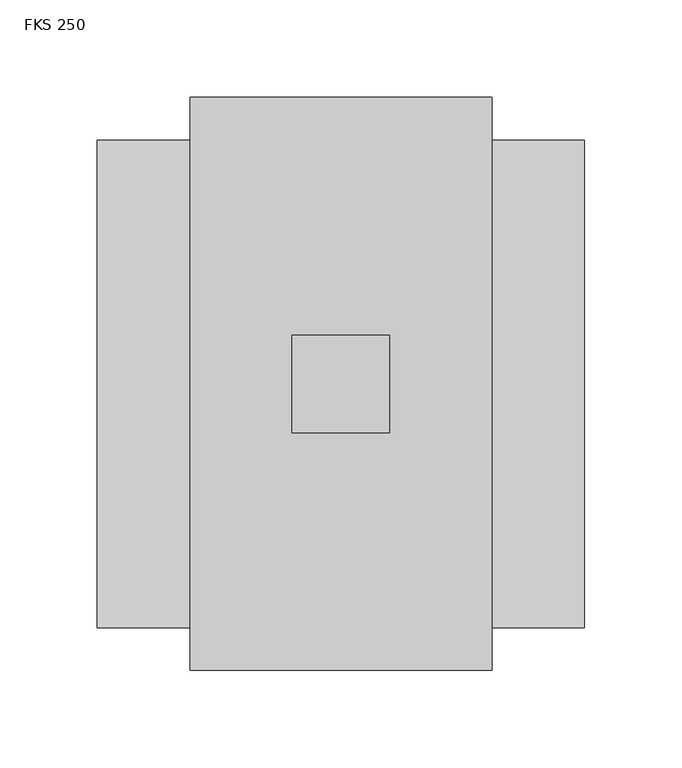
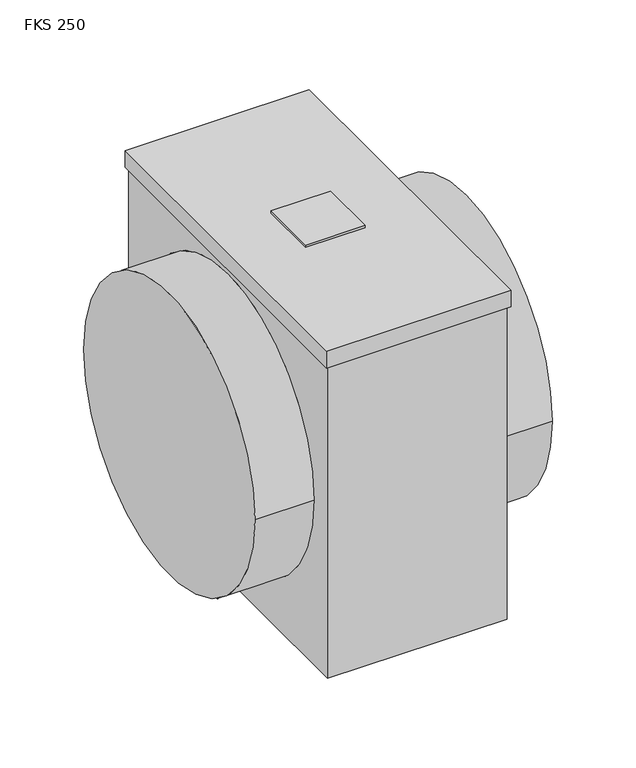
"""IFC4 building model written with IfcOpenShell, lengths in millimetres: damper geometry, KORF_Фильтр_Кассетный_Круглый_FKS : FKS 250."""

from ifc_helpers import new_model, si_unit, frame, origin, place, context, project, spatial, polyline, circle_curve, outline, extrude, source, transform, mapped, element, save
from ifc_brep_helpers import plane_surface, cylinder_surface, advanced_brep


def fks_250_b62fb0ec(model_context):
    return source(origin(), model_context, "Body", "SolidModel", [
        extrude(outline(polyline([(150.0, 25.0), (150.0, -25.0), (100.0, -25.0), (100.0, 25.0), (150.0, 25.0)])), frame((0.0, 0.0, 146.5), z_axis=(0.0, 0.0, 1.0), x_axis=(1.0, 0.0, 0.0)), (0.0, 0.0, 1.0), 2.0),
        advanced_brep(
        [(250.0, -125.0, 0.0), (250.0, 125.0, 0.0), (0.0, -125.0, 0.0), (0.0, 125.0, 0.0), (200.5, -125.0, 0.0), (200.5, 125.0, 0.0), (49.5, 125.0, 0.0), (49.5, -125.0, 0.0), (200.5, -145.0, -146.5), (200.5, 145.0, -146.5), (200.5, 145.0, 131.5), (200.5, -145.0, 131.5), (49.5, 145.0, -146.5), (49.5, -145.0, -146.5), (49.5, -145.0, 131.5), (49.5, 145.0, 131.5), (202.5, 147.0, 146.5), (47.5, 147.0, 146.5), (47.5, -147.0, 146.5), (202.5, -147.0, 146.5), (202.5, 147.0, 131.5), (202.5, -147.0, 131.5), (47.5, -147.0, 131.5), (47.5, 147.0, 131.5)],
        [
            (0, 1, circle_curve(frame((250.0, 0.0, 0.0), z_axis=(1.0, 0.0, 0.0), x_axis=(0.0, 1.0, 0.0)), 125.0)),
            (1, 0, circle_curve(frame((250.0, 0.0, 0.0), z_axis=(1.0, 0.0, 0.0), x_axis=(0.0, 1.0, 0.0)), 125.0)),
            (2, 3, circle_curve(frame((0.0, 0.0, 0.0), z_axis=(-1.0, 0.0, 0.0), x_axis=(0.0, 1.0, 0.0)), 125.0)),
            (3, 2, circle_curve(frame((0.0, 0.0, 0.0), z_axis=(-1.0, 0.0, 0.0), x_axis=(0.0, 1.0, 0.0)), 125.0)),
            (0, 4),
            (4, 5, circle_curve(frame((200.5, 0.0, 0.0), z_axis=(1.0, 0.0, 0.0), x_axis=(0.0, 1.0, 0.0)), 125.0)),
            (5, 1),
            (3, 6),
            (6, 7, circle_curve(frame((49.5, 0.0, 0.0), z_axis=(-1.0, 0.0, 0.0), x_axis=(0.0, 1.0, 0.0)), 125.0)),
            (7, 2),
            (5, 4, circle_curve(frame((200.5, 0.0, 0.0), z_axis=(1.0, 0.0, 0.0), x_axis=(0.0, 1.0, 0.0)), 125.0)),
            (7, 6, circle_curve(frame((49.5, 0.0, 0.0), z_axis=(-1.0, 0.0, 0.0), x_axis=(0.0, 1.0, 0.0)), 125.0)),
            (8, 9),
            (9, 10),
            (10, 11),
            (11, 8),
            (12, 13),
            (13, 14),
            (14, 15),
            (15, 12),
            (13, 8),
            (11, 14),
            (12, 9),
            (15, 10),
            (16, 17),
            (17, 18),
            (18, 19),
            (19, 16),
            (20, 21),
            (21, 22),
            (22, 23),
            (23, 20),
            (16, 20),
            (23, 17),
            (22, 18),
            (21, 19),
        ],
        [
            plane_surface(frame((250.0, 125.0, 0.0), z_axis=(1.0, 0.0, 0.0), x_axis=(0.0, 0.0, 1.0))),
            plane_surface(frame((0.0, 125.0, 0.0), z_axis=(-1.0, 0.0, 0.0), x_axis=(0.0, 0.0, -1.0))),
            cylinder_surface(frame((0.0, 0.0, 0.0), z_axis=(1.0, 0.0, 0.0), x_axis=(0.0, 1.0, 0.0)), 125.0),
            plane_surface(frame((200.5, -145.0, 146.5), z_axis=(1.0, 0.0, 0.0), x_axis=(0.0, 0.0, -1.0))),
            plane_surface(frame((49.5, -145.0, 146.5), z_axis=(-1.0, 0.0, 0.0), x_axis=(0.0, 0.0, 1.0))),
            plane_surface(frame((200.5, -145.0, 146.5), z_axis=(0.0, -1.0, 0.0), x_axis=(-1.0, 0.0, 0.0))),
            plane_surface(frame((200.5, -145.0, -146.5), z_axis=(0.0, 0.0, -1.0), x_axis=(-1.0, 0.0, 0.0))),
            plane_surface(frame((200.5, 145.0, -146.5), z_axis=(0.0, 1.0, 0.0), x_axis=(-1.0, 0.0, 0.0))),
            plane_surface(frame((200.5, 145.0, 146.5), z_axis=(0.0, 0.0, 1.0), x_axis=(-1.0, 0.0, 0.0))),
            plane_surface(frame((47.5, 147.0, 131.5), z_axis=(0.0, 0.0, -1.0), x_axis=(1.0, 0.0, 0.0))),
            plane_surface(frame((202.5, 147.0, 146.5), z_axis=(0.0, 1.0, 0.0), x_axis=(0.0, 0.0, -1.0))),
            plane_surface(frame((47.5, 147.0, 146.5), z_axis=(-1.0, 0.0, 0.0), x_axis=(0.0, 0.0, -1.0))),
            plane_surface(frame((47.5, -147.0, 146.5), z_axis=(0.0, -1.0, 0.0), x_axis=(0.0, 0.0, -1.0))),
            plane_surface(frame((202.5, -147.0, 146.5), z_axis=(1.0, 0.0, 0.0), x_axis=(0.0, 0.0, -1.0))),
        ],
        [
            (0, [[1, 2]]),
            (1, [[3, 4]]),
            (2, [[-1, 5, 6, 7]]),
            (2, [[-4, 8, 9, 10]]),
            (2, [[-2, -7, 11, -5]]),
            (2, [[-3, -10, 12, -8]]),
            (3, [[13, 14, 15, 16], [-6, -11]]),
            (4, [[17, 18, 19, 20], [-9, -12]]),
            (5, [[21, -16, 22, -18]]),
            (6, [[-13, -21, -17, 23]]),
            (7, [[-23, -20, 24, -14]]),
            (8, [[25, 26, 27, 28]]),
            (9, [[29, 30, 31, 32], [-15, -24, -19, -22]]),
            (10, [[-25, 33, -32, 34]]),
            (11, [[-26, -34, -31, 35]]),
            (12, [[-27, -35, -30, 36]]),
            (13, [[-28, -36, -29, -33]]),
        ],
    ),
    ])


if __name__ == "__main__":
    model = new_model("IFC4")
    model_context = context("Model", 3, world=origin())
    ifc_project = project(units=[si_unit("LENGTHUNIT", "METRE", prefix="MILLI")], contexts=[model_context])
    site = spatial("IfcSite", under=ifc_project)
    building = spatial("IfcBuilding", under=site)
    placement = place(None, origin())
    fks_250_shape = fks_250_b62fb0ec(model_context)
    element("IfcDamper", 1, ObjectType="KORF_Фильтр_Кассетный_Круглый_FKS : FKS 250", at=placement, inside=building, context=model_context, shape_type="MappedRepresentation", body=[
        mapped(fks_250_shape, transform((0.0, 0.0, 0.0), x_axis=(1.0, 0.0, 0.0), y_axis=(0.0, 1.0, 0.0), z_axis=(0.0, 0.0, 1.0))),
    ])
    save(model, "model.ifc")
